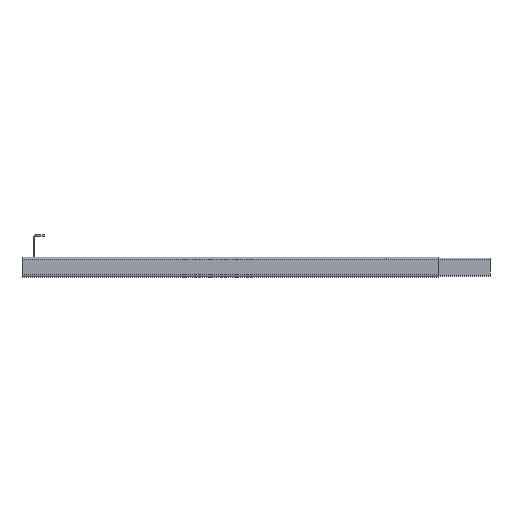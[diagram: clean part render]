
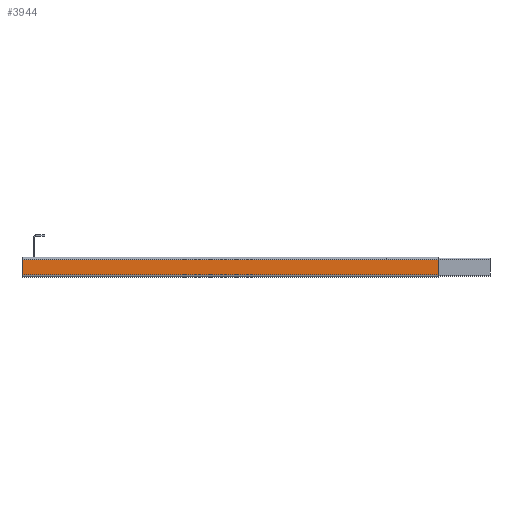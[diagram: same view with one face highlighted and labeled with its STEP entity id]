
A CAD part, left-side view. The second image highlights one B-rep face of the part: STEP entity #3944.
In plain terms, the highlighted planar face has unit normal (-1, 0, 0).
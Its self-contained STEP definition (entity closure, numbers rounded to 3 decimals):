
#2346=DIRECTION('',(0.,-1.,0.));
#2347=VECTOR('',#2346,1200.);
#2348=CARTESIAN_POINT('',(-275.,0.,22.058));
#2349=LINE('',#2348,#2347);
#2518=DIRECTION('',(0.,0.,1.));
#2519=VECTOR('',#2518,44.116);
#2520=CARTESIAN_POINT('',(-275.,-1200.,-22.058));
#2521=LINE('',#2520,#2519);
#2693=DIRECTION('',(0.,0.,1.));
#2694=VECTOR('',#2693,44.116);
#2695=CARTESIAN_POINT('',(-275.,0.,-22.058));
#2696=LINE('',#2695,#2694);
#2705=DIRECTION('',(0.,-1.,0.));
#2706=VECTOR('',#2705,1200.);
#2707=CARTESIAN_POINT('',(-275.,0.,-22.058));
#2708=LINE('',#2707,#2706);
#2951=CARTESIAN_POINT('',(-275.,0.,-22.058));
#2952=CARTESIAN_POINT('',(-275.,0.,22.058));
#2953=VERTEX_POINT('',#2951);
#2954=VERTEX_POINT('',#2952);
#2971=CARTESIAN_POINT('',(-275.,-1200.,-22.058));
#2972=CARTESIAN_POINT('',(-275.,-1200.,22.058));
#2973=VERTEX_POINT('',#2971);
#2974=VERTEX_POINT('',#2972);
#3932=CARTESIAN_POINT('',(-275.,0.,-28.5));
#3933=DIRECTION('',(-1.,0.,0.));
#3934=DIRECTION('',(0.,0.,1.));
#3935=AXIS2_PLACEMENT_3D('',#3932,#3933,#3934);
#3936=PLANE('',#3935);
#3937=ORIENTED_EDGE('',*,*,#3923,.T.);
#3938=ORIENTED_EDGE('',*,*,#3365,.T.);
#3939=ORIENTED_EDGE('',*,*,#3640,.F.);
#3941=ORIENTED_EDGE('',*,*,#3940,.F.);
#3942=EDGE_LOOP('',(#3937,#3938,#3939,#3941));
#3943=FACE_OUTER_BOUND('',#3942,.F.);
#3365=EDGE_CURVE('',#2954,#2974,#2349,.T.);
#3640=EDGE_CURVE('',#2973,#2974,#2521,.T.);
#3923=EDGE_CURVE('',#2953,#2954,#2696,.T.);
#3940=EDGE_CURVE('',#2953,#2973,#2708,.T.);
#3944=ADVANCED_FACE('',(#3943),#3936,.T.);
